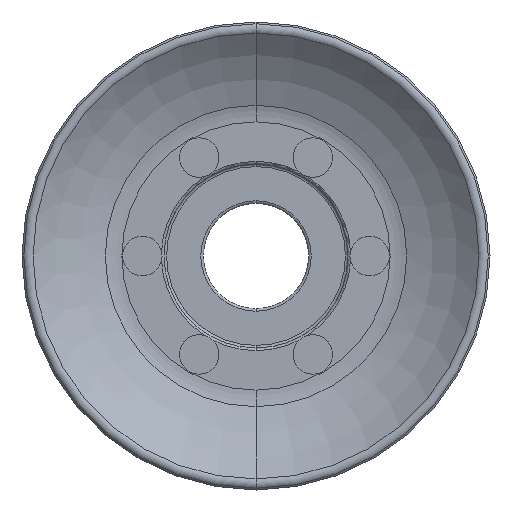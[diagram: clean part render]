
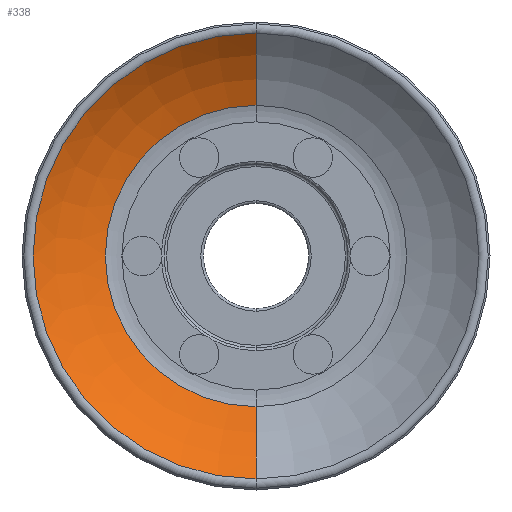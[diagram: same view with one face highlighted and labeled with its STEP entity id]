
A CAD part, front view. The second image highlights one B-rep face of the part: STEP entity #338.
In plain terms, the highlighted toroidal (fillet/blend) face has major radius 6.732 mm and minor radius 15 mm.
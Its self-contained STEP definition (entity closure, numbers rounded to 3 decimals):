
#50 = CARTESIAN_POINT ( 'NONE',  ( 0., -30.439, -6.732 ) ) ;
#107 = ORIENTED_EDGE ( 'NONE', *, *, #300, .T. ) ;
#122 = EDGE_CURVE ( 'NONE', #216, #1105, #556, .T. ) ;
#147 = DIRECTION ( 'NONE',  ( 0., 1., 0. ) ) ;
#154 = EDGE_CURVE ( 'NONE', #1259, #1105, #384, .T. ) ;
#168 = DIRECTION ( 'NONE',  ( 0., 1., 0. ) ) ;
#216 = VERTEX_POINT ( 'NONE', #1431 ) ;
#228 = DIRECTION ( 'NONE',  ( 0., 1., 0. ) ) ;
#257 = DIRECTION ( 'NONE',  ( 0., 0., 1. ) ) ;
#277 = DIRECTION ( 'NONE',  ( 0., 0., 1. ) ) ;
#300 = EDGE_CURVE ( 'NONE', #1427, #1259, #518, .T. ) ;
#338 = ADVANCED_FACE ( 'NONE', ( #1406 ), #1247, .F. ) ;
#353 = ORIENTED_EDGE ( 'NONE', *, *, #154, .T. ) ;
#384 = CIRCLE ( 'NONE', #1210, 11.461 ) ;
#480 = ORIENTED_EDGE ( 'NONE', *, *, #122, .F. ) ;
#517 = EDGE_CURVE ( 'NONE', #1427, #216, #945, .T. ) ;
#518 = CIRCLE ( 'NONE', #1187, 15. ) ;
#529 = AXIS2_PLACEMENT_3D ( 'NONE', #1381, #701, #938 ) ;
#552 = CARTESIAN_POINT ( 'NONE',  ( 0., -16.204, 11.461 ) ) ;
#556 = CIRCLE ( 'NONE', #529, 15. ) ;
#628 = CARTESIAN_POINT ( 'NONE',  ( 0., -16.204, 0. ) ) ;
#698 = DIRECTION ( 'NONE',  ( 0., 0., 1. ) ) ;
#701 = DIRECTION ( 'NONE',  ( -1., 0., 0. ) ) ;
#736 = DIRECTION ( 'NONE',  ( 1., 0., 0. ) ) ;
#815 = CARTESIAN_POINT ( 'NONE',  ( 0., -16.204, -11.461 ) ) ;
#852 = CARTESIAN_POINT ( 'NONE',  ( 0., -30.439, 0. ) ) ;
#888 = EDGE_LOOP ( 'NONE', ( #1312, #107, #353, #480 ) ) ;
#938 = DIRECTION ( 'NONE',  ( 0., 0., 1. ) ) ;
#945 = CIRCLE ( 'NONE', #1358, 16.959 ) ;
#1105 = VERTEX_POINT ( 'NONE', #552 ) ;
#1185 = CARTESIAN_POINT ( 'NONE',  ( 0., -19.466, -16.959 ) ) ;
#1187 = AXIS2_PLACEMENT_3D ( 'NONE', #50, #736, #1321 ) ;
#1210 = AXIS2_PLACEMENT_3D ( 'NONE', #628, #168, #277 ) ;
#1247 = TOROIDAL_SURFACE ( 'NONE', #1263, 6.732, 15. ) ;
#1259 = VERTEX_POINT ( 'NONE', #815 ) ;
#1263 = AXIS2_PLACEMENT_3D ( 'NONE', #852, #147, #257 ) ;
#1312 = ORIENTED_EDGE ( 'NONE', *, *, #517, .F. ) ;
#1321 = DIRECTION ( 'NONE',  ( 0., 0., -1. ) ) ;
#1358 = AXIS2_PLACEMENT_3D ( 'NONE', #1377, #228, #698 ) ;
#1377 = CARTESIAN_POINT ( 'NONE',  ( 0., -19.466, 0. ) ) ;
#1381 = CARTESIAN_POINT ( 'NONE',  ( 0., -30.439, 6.732 ) ) ;
#1406 = FACE_OUTER_BOUND ( 'NONE', #888, .T. ) ;
#1427 = VERTEX_POINT ( 'NONE', #1185 ) ;
#1431 = CARTESIAN_POINT ( 'NONE',  ( 0., -19.466, 16.959 ) ) ;
